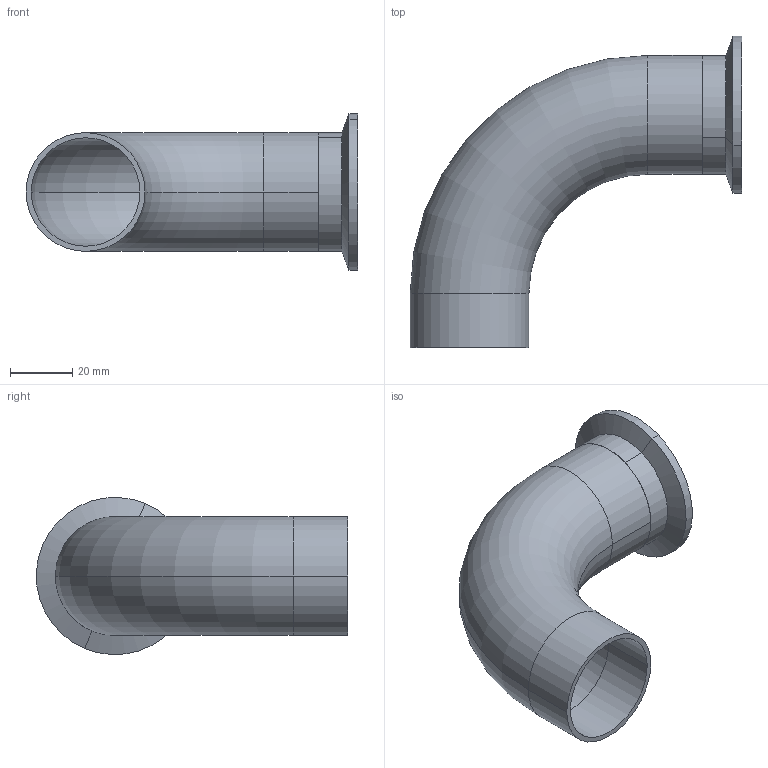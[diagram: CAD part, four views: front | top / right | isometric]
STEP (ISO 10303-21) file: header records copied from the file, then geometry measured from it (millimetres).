
FILE_DESCRIPTION (( 'STEP AP203' ), '1' );
FILE_NAME ('E2C1.5.STEP', '2018-04-30T15:38:25', ( 'vneprd' ), ( 'Microsoft' ), 'SwSTEP 2.0', 'SolidWorks 2014', '' );
FILE_SCHEMA (( 'CONFIG_CONTROL_DESIGN' ));
Length unit declared in the file: inch
Products named in the file (1): E2C1.5
Bounding box: 106.35 x 99.77 x 50.34 mm (x, y, z)
Volume: 28832.1 mm3; surface area: 34031.7 mm2
Topology: 2 solids, 2 shells, 35 faces, 70 edges, 40 vertices
Faces by surface type: cylinder 14, torus 10, cone 6, plane 5
Entity records: 999 total; most frequent: DIRECTION 192, CARTESIAN_POINT 146, ORIENTED_EDGE 140, AXIS2_PLACEMENT_3D 86, EDGE_CURVE 70, CIRCLE 50, EDGE_LOOP 40, VERTEX_POINT 40
